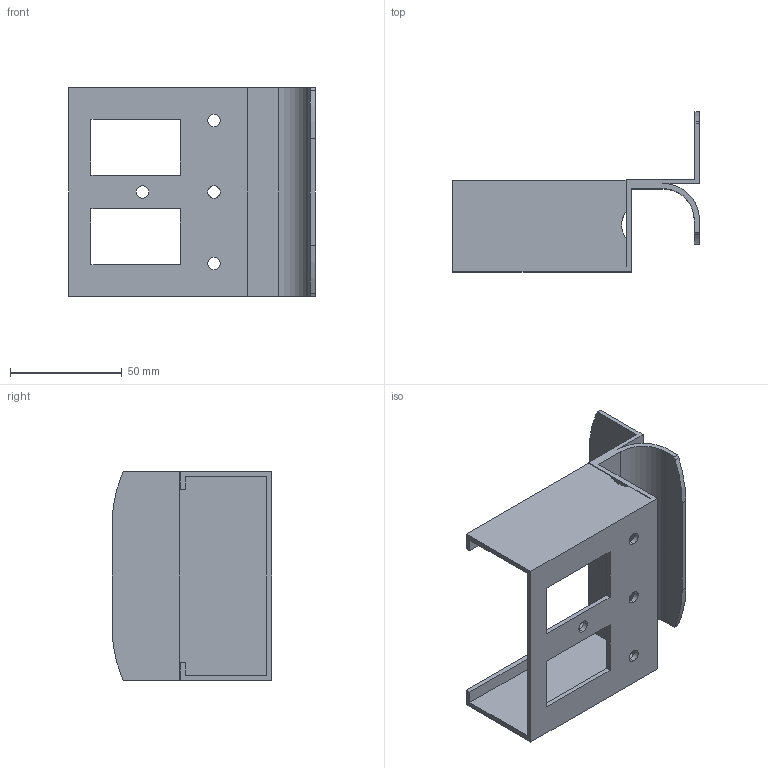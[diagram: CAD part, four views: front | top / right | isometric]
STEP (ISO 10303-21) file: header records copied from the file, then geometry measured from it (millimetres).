
FILE_DESCRIPTION (( 'STEP AP214' ), '1' );
FILE_NAME ('JB-502W.step', '2024-01-17T00:58:29', ( 'catia' ), ( 'HP Inc.' ), 'SwSTEP 2.0', 'SolidWorks 2021', '' );
FILE_SCHEMA (( 'AUTOMOTIVE_DESIGN' ));
Length unit declared in the file: millimetre
Products named in the file (1): JB-502W
Bounding box: 110.3 x 71.4 x 93.4 mm (x, y, z)
Volume: 57842.4 mm3; surface area: 51705.6 mm2
Topology: 1 solids, 1 shells, 56 faces, 162 edges, 108 vertices
Faces by surface type: plane 40, cylinder 16
Entity records: 1896 total; most frequent: CARTESIAN_POINT 327, ORIENTED_EDGE 324, DIRECTION 308, EDGE_CURVE 162, LINE 130, VECTOR 130, VERTEX_POINT 108, AXIS2_PLACEMENT_3D 89
